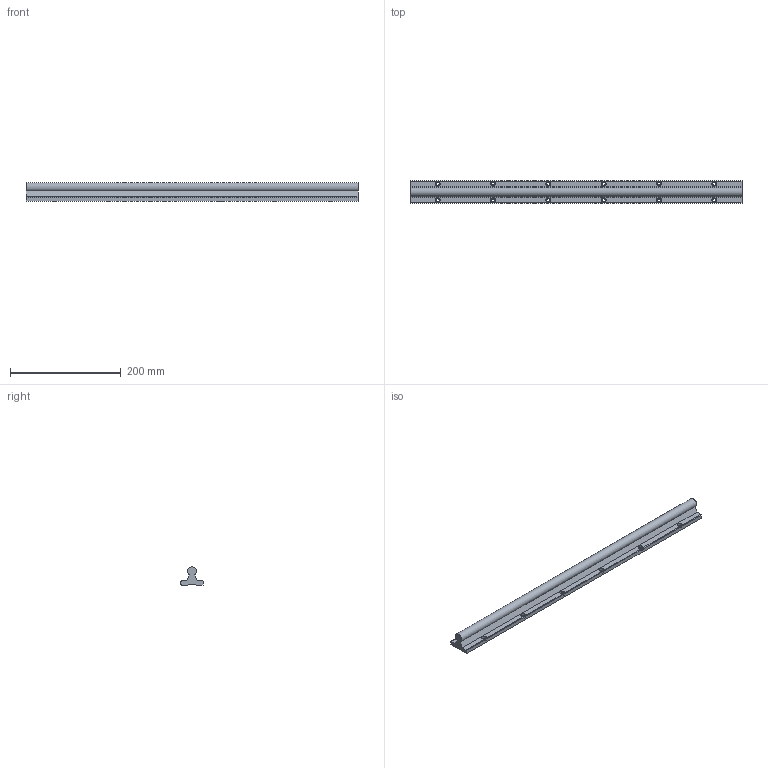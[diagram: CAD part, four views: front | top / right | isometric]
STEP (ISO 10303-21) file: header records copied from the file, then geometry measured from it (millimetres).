
FILE_DESCRIPTION((''),'2;1');
FILE_NAME('D:\製品 (図面)\カタログ用3D\GC16R.stp','2010-06-07T14:37:39',('Tsuchiya'),(''),'Autodesk Inventor 10','Autodesk Inventor 10','');
FILE_SCHEMA(('AUTOMOTIVE_DESIGN { 1 0 10303 214 1 1 1 1 }'));
Length unit declared in the file: millimetre
Products named in the file (1): GC16R
Bounding box: 600 x 40 x 33 mm (x, y, z)
Volume: 384795.2 mm3; surface area: 86768.6 mm2
Topology: 1 solids, 1 shells, 53 faces, 153 edges, 102 vertices
Faces by surface type: bspline 36, plane 11, cylinder 6
Entity records: 2042 total; most frequent: CARTESIAN_POINT 849, ORIENTED_EDGE 234, DIRECTION 201, EDGE_CURVE 117, EDGE_LOOP 101, VERTEX_POINT 90, AXIS2_PLACEMENT_3D 78, CIRCLE 60
